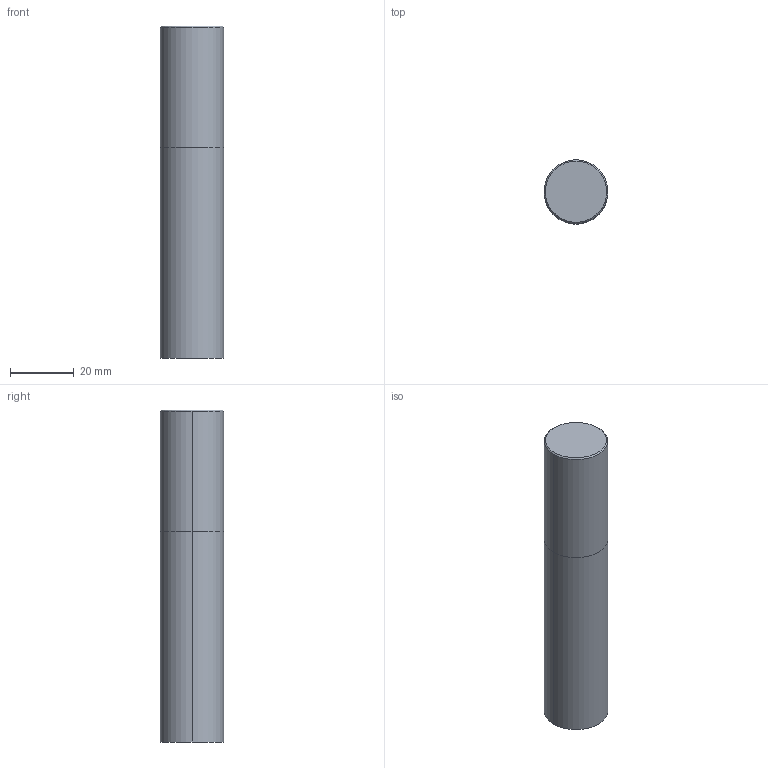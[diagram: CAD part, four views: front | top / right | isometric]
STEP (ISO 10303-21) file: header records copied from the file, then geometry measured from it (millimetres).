
FILE_DESCRIPTION(('STEP AP214'),'1');
FILE_NAME('cctmp_1D803E37-9725-45A7-8A2F-705F9EA749AB_2020_09_30_15_42_51_0819..stp','2020-09-30T13:42:51',('Meusburger Georg GmbH & Co KG'),('CADClick - www.CADClick.com'),'Spatial InterOp 3D',' ','unknown authorization');
FILE_SCHEMA(('AUTOMOTIVE_DESIGN { 1 0 10303 214 1 1 1 1 }'));
Length unit declared in the file: millimetre
Products named in the file (1): WZF12248P_20
Bounding box: 20 x 20 x 104 mm (x, y, z)
Volume: 32667.6 mm3; surface area: 7149.2 mm2
Topology: 1 solids, 1 shells, 12 faces, 22 edges, 14 vertices
Faces by surface type: cylinder 6, plane 4, cone 2
Entity records: 424 total; most frequent: DIRECTION 62, CARTESIAN_POINT 49, ORIENTED_EDGE 44, AXIS2_PLACEMENT_3D 27, EDGE_CURVE 22, EDGE_LOOP 14, VERTEX_POINT 14, CIRCLE 14
